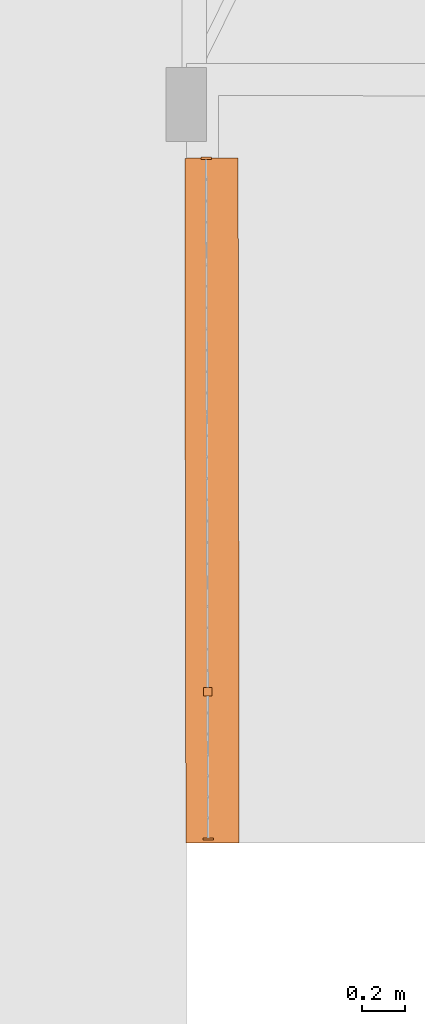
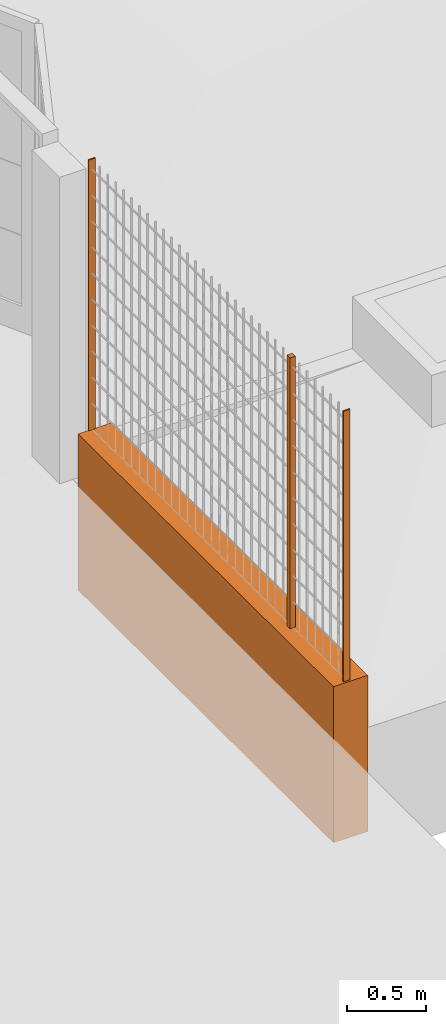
# One storey, part 28 of 1809: 4 proxies, 1 element without a shape of its own.
"""IFC2X3 building model written with IfcOpenShell, lengths in millimetres."""

from ifc_helpers import new_model, entity, si_unit, converted_unit, derived_unit, money_unit, direction, frame, origin_with_axes, place, context, subcontext, project, spatial, polyline, outline, extrude, faceted_brep, source, transform, mapped, material, type_object, element, aggregate, save


model = new_model("IFC2X3")

# Units and contexts
model_context = context("Model", 3, precision=0.01, world=origin_with_axes(), true_north=direction((0.0, 1.0)))
body_context = subcontext(model_context, "Body", "Model", "MODEL_VIEW")
ifc_project = project(units=[si_unit("LENGTHUNIT", "METRE", prefix="MILLI"), si_unit("AREAUNIT", "SQUARE_METRE"), si_unit("VOLUMEUNIT", "CUBIC_METRE"), converted_unit("PLANEANGLEUNIT", "DEGREE", entity("IfcPlaneAngleMeasure", 0.0174532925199), si_unit("PLANEANGLEUNIT", "RADIAN"), dimensions=[0, 0, 0, 0, 0, 0, 0]), si_unit("SOLIDANGLEUNIT", "STERADIAN"), money_unit("EUR"), converted_unit("TIMEUNIT", "Year", entity("IfcTimeMeasure", 31556926.0), si_unit("TIMEUNIT", "SECOND"), dimensions=[0, 0, 1, 0, 0, 0, 0]), si_unit("MASSUNIT", "GRAM", prefix="KILO"), si_unit("THERMODYNAMICTEMPERATUREUNIT", "DEGREE_CELSIUS"), si_unit("LUMINOUSINTENSITYUNIT", "LUMEN"), si_unit("ENERGYUNIT", "JOULE", prefix="MEGA"), derived_unit("THERMALCONDUCTANCEUNIT", [(si_unit("POWERUNIT", "WATT"), 1), (si_unit("LENGTHUNIT", "METRE"), -1), (si_unit("THERMODYNAMICTEMPERATUREUNIT", "KELVIN"), -1)]), derived_unit("SPECIFICHEATCAPACITYUNIT", [(si_unit("ENERGYUNIT", "JOULE"), 1), (si_unit("MASSUNIT", "GRAM", prefix="KILO"), -1), (si_unit("THERMODYNAMICTEMPERATUREUNIT", "KELVIN"), -1)]), derived_unit("MASSDENSITYUNIT", [(si_unit("MASSUNIT", "GRAM", prefix="KILO"), 1), (si_unit("VOLUMEUNIT", "CUBIC_METRE"), -1)])], contexts=[model_context])

# Site, building, storey
site_placement = place(None, origin_with_axes())
site = spatial("IfcSite", under=ifc_project, at=site_placement, Name="Politse- ja Piirivalveameti ning Päästeameti ühishoone", CompositionType="ELEMENT")
building_placement = place(site_placement, origin_with_axes())
building = spatial("IfcBuilding", under=site, at=building_placement, Name="Politse- ja Piirivalveameti ning Päästeameti ühishoone", CompositionType="ELEMENT")
storey_placement = place(building_placement, origin_with_axes())
storey = spatial("IfcBuildingStorey", under=building, at=storey_placement, Name="Esimene korrus", CompositionType="ELEMENT", Elevation=0.0)

# Proxy
ifc_material_1 = material(Name="Betoon")
building_element_proxy_type_1 = type_object("IfcBuildingElementProxyType", Name="Betoon 1200", PredefinedType="NOTDEFINED")
proxy_1_placement = place(storey_placement, frame((59645.2533921, 41217.0393973, 400.0), z_axis=(0.0, 0.0, 1.0), x_axis=(1.0, 0.0, 0.0)))
element("IfcBuildingElementProxy", 1, at=proxy_1_placement, inside=storey, type_object=building_element_proxy_type_1, material=ifc_material_1, Name="PIIRDEAED", context=body_context, shape_type="SweptSolid", body=[
    extrude(outline(polyline([(0.0, 0.0), (5.29851561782, -3207.08544407), (255.298173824, -3206.67241264), (249.999658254, 0.413031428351), (0.0, 0.0)])), frame((0.0, 0.0, -1200.0), z_axis=(0.0, 0.0, 1.0), x_axis=(1.0, 0.0, 0.0)), (0.0, 0.0, 1.0), 1200.0),
])

# Proxies
building_element_proxy_type_2 = type_object("IfcBuildingElementProxyType", Name="Railing Type", PredefinedType="NOTDEFINED")
proxy_2_placement = place(storey_placement, frame((59564.9063479, 59535.3191732, 400.0), z_axis=(0.0, 0.0, 1.0), x_axis=(1.0, 0.0, 0.0)))
proxy_2 = element("IfcBuildingElementProxy", 2, at=proxy_2_placement, inside=storey, type_object=building_element_proxy_type_2, Name="PIIRDEAED")
ifc_material_2 = material(Name="Teras - Konstruktsioon")
building_element_proxy_type_3 = type_object("IfcBuildingElementProxyType", Name="IfcBuildingElementProxy", PredefinedType="NOTDEFINED")
shared_shape_1 = source(origin_with_axes(), body_context, "Body", "Brep", [
    faceted_brep([(25.0, 5.0, 0.0), (-25.0, 5.0, 0.0), (-25.0, 4.99999999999, 2080.0), (25.0, 4.99999999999, 2080.0), (25.0, -5.0, 0.0), (-25.0, -5.0, 0.0), (-25.0, -5.00000000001, 2080.0), (25.0, -5.00000000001, 2080.0)], [[[0, 1, 2, 3]], [[0, 4, 5, 1]], [[1, 5, 6, 2]], [[3, 2, 6, 7]], [[4, 0, 3, 7]], [[5, 4, 7, 6]]]),
])
proxy_3_placement = place(proxy_2_placement, frame((180.323628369, -18318.1527767, 0.0), z_axis=(0.0, 0.0, 1.0), x_axis=(1.0, 0.0, 0.0)))
proxy_3 = element("IfcBuildingElementProxy", 3, at=proxy_3_placement, type_object=building_element_proxy_type_3, material=ifc_material_2, Name="PIIRDE POST - 001", context=body_context, shape_type="MappedRepresentation", body=[
    mapped(shared_shape_1, transform((0.0, 0.0, 0.0), x_axis=(-0.999995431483, -0.00302274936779, 0.0), y_axis=(0.00302274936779, -0.999995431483, 0.0), z_axis=(0.0, 0.0, 1.0))),
])
proxy_4_placement = place(proxy_2_placement, frame((189.96326271, -21507.1668595, 0.0), z_axis=(0.0, 0.0, 1.0), x_axis=(1.0, 0.0, 0.0)))
proxy_4 = element("IfcBuildingElementProxy", 4, at=proxy_4_placement, type_object=building_element_proxy_type_3, material=ifc_material_2, Name="PIIRDE POST - 001", context=body_context, shape_type="MappedRepresentation", body=[
    mapped(shared_shape_1, transform((0.0, 0.0, 0.0), x_axis=(-0.999995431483, -0.00302274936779, 0.0), y_axis=(0.00302274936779, -0.999995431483, 0.0), z_axis=(0.0, 0.0, 1.0))),
])
ifc_material_3 = material(Name="ET-03_Raud")
shared_shape_2 = source(origin_with_axes(), body_context, "Body", "Brep", [
    faceted_brep([(20.0, 20.0, 0.0), (-20.0, 20.0, 0.0), (-20.0, 20.0, 2080.0), (20.0, 20.0, 2080.0), (20.0, -20.0, 0.0), (-20.0, -20.0, 0.0), (-20.0, -20.0, 2080.0), (20.0, -20.0, 2080.0)], [[[0, 1, 2, 3]], [[0, 4, 5, 1]], [[1, 5, 6, 2]], [[3, 2, 6, 7]], [[4, 0, 3, 7]], [[5, 4, 7, 6]]]),
])
proxy_5_placement = place(proxy_2_placement, frame((187.880501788, -20818.1413554, 0.0), z_axis=(0.0, 0.0, 1.0), x_axis=(1.0, 0.0, 0.0)))
proxy_5 = element("IfcBuildingElementProxy", 5, at=proxy_5_placement, type_object=building_element_proxy_type_3, material=ifc_material_3, Name="SISEPOST - 001", context=body_context, shape_type="MappedRepresentation", body=[
    mapped(shared_shape_2, transform((0.0, 0.0, 0.0), x_axis=(-0.999995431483, -0.00302274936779, 0.0), y_axis=(0.00302274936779, -0.999995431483, 0.0), z_axis=(0.0, 0.0, 1.0))),
])
aggregate(proxy_2, [proxy_3, proxy_4, proxy_5])

save(model, "model.ifc")
